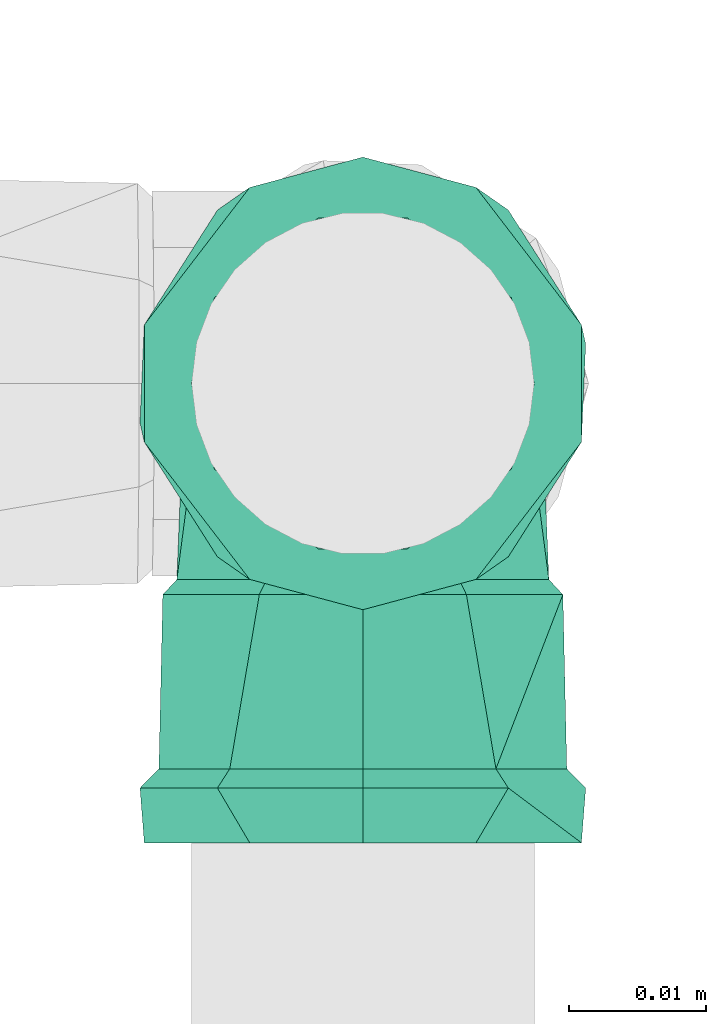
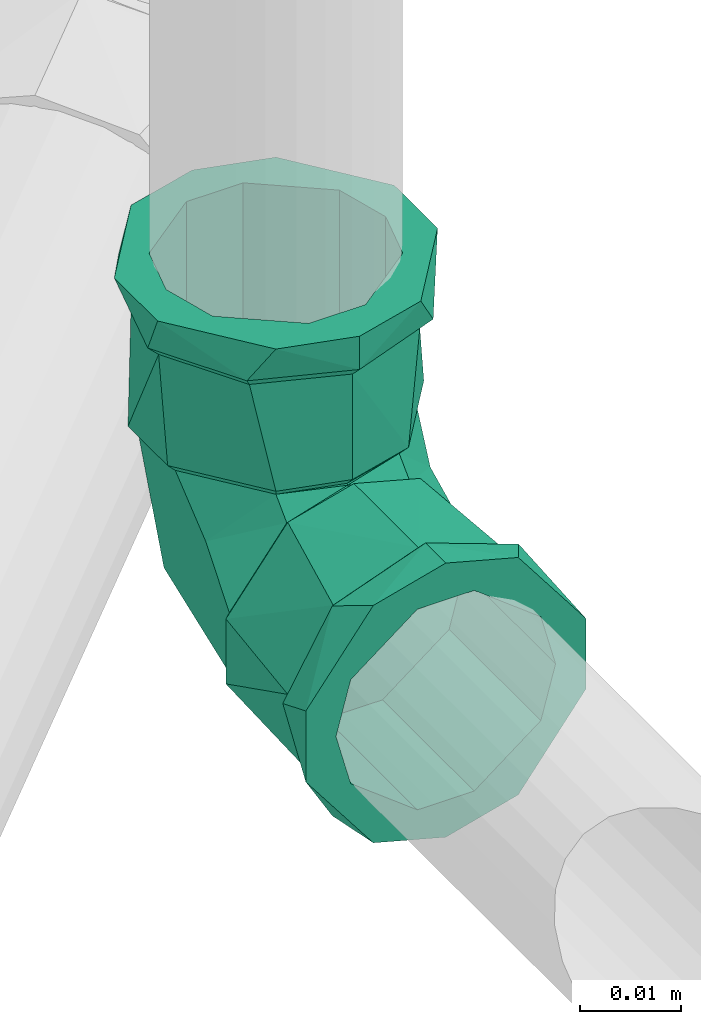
# One storey, part 329 of 589: 1 flow fitting.
"""IFC2X3 building model written with IfcOpenShell, lengths in millimetres."""

from ifc_helpers import new_model, entity, si_unit, converted_unit, derived_unit, direction, frame, origin, place, context, subcontext, project, spatial, faceted_brep, source, transform, mapped, material, type_object, type_shapes, element, save


model = new_model("IFC2X3")

# Units and contexts
model_context = context("Model", 3, precision=0.01, world=origin(), true_north=direction((6.123031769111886e-17, 1.0)))
body_context = subcontext(model_context, "Body", "Model", "MODEL_VIEW")
ifc_project = project(units=[si_unit("LENGTHUNIT", "METRE", prefix="MILLI"), si_unit("AREAUNIT", "SQUARE_METRE"), si_unit("VOLUMEUNIT", "CUBIC_METRE"), converted_unit("PLANEANGLEUNIT", "DEGREE", entity("IfcRatioMeasure", 0.017453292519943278), si_unit("PLANEANGLEUNIT", "RADIAN"), dimensions=[0, 0, 0, 0, 0, 0, 0]), si_unit("MASSUNIT", "GRAM", prefix="KILO"), derived_unit("MASSDENSITYUNIT", [(si_unit("MASSUNIT", "GRAM", prefix="KILO"), 1), (si_unit("LENGTHUNIT", "METRE"), -3)]), derived_unit("IONCONCENTRATIONUNIT", [(si_unit("MASSUNIT", "GRAM", prefix="KILO"), 1), (si_unit("LENGTHUNIT", "METRE"), -3)]), derived_unit("MOMENTOFINERTIAUNIT", [(si_unit("LENGTHUNIT", "METRE"), 4)]), si_unit("TIMEUNIT", "SECOND"), si_unit("FREQUENCYUNIT", "HERTZ"), si_unit("THERMODYNAMICTEMPERATUREUNIT", "DEGREE_CELSIUS"), derived_unit("THERMALTRANSMITTANCEUNIT", [(si_unit("MASSUNIT", "GRAM", prefix="KILO"), 1), (si_unit("THERMODYNAMICTEMPERATUREUNIT", "KELVIN"), -1), (si_unit("TIMEUNIT", "SECOND"), -3)]), derived_unit("THERMALCONDUCTANCEUNIT", [(si_unit("MASSUNIT", "GRAM", prefix="KILO"), 1), (si_unit("THERMODYNAMICTEMPERATUREUNIT", "KELVIN"), -1), (si_unit("TIMEUNIT", "SECOND"), -3), (si_unit("LENGTHUNIT", "METRE"), 1)]), derived_unit("VOLUMETRICFLOWRATEUNIT", [(si_unit("LENGTHUNIT", "METRE"), 3), (si_unit("TIMEUNIT", "SECOND"), -1)]), derived_unit("MASSFLOWRATEUNIT", [(si_unit("MASSUNIT", "GRAM", prefix="KILO"), 1), (si_unit("TIMEUNIT", "SECOND"), -1)]), derived_unit("ROTATIONALFREQUENCYUNIT", [(si_unit("TIMEUNIT", "SECOND"), -1)]), si_unit("ELECTRICCURRENTUNIT", "AMPERE"), si_unit("ELECTRICVOLTAGEUNIT", "VOLT"), si_unit("POWERUNIT", "WATT"), si_unit("FORCEUNIT", "NEWTON", prefix="KILO"), si_unit("ILLUMINANCEUNIT", "LUX"), si_unit("LUMINOUSFLUXUNIT", "LUMEN"), si_unit("LUMINOUSINTENSITYUNIT", "CANDELA"), derived_unit("USERDEFINED", [(si_unit("MASSUNIT", "GRAM", prefix="KILO"), -1), (si_unit("LENGTHUNIT", "METRE"), -2), (si_unit("TIMEUNIT", "SECOND"), 3), (si_unit("LUMINOUSFLUXUNIT", "LUMEN"), 1)]), derived_unit("USERDEFINED", [(si_unit("MASSUNIT", "GRAM", prefix="KILO"), 1), (si_unit("TIMEUNIT", "SECOND"), -3), (si_unit("LENGTHUNIT", "METRE"), 3), (si_unit("ELECTRICCURRENTUNIT", "AMPERE"), -2)]), derived_unit("SOUNDPOWERUNIT", [(si_unit("MASSUNIT", "GRAM", prefix="KILO"), 1), (si_unit("TIMEUNIT", "SECOND"), -3), (si_unit("LENGTHUNIT", "METRE"), 2)]), derived_unit("SOUNDPRESSUREUNIT", [(si_unit("MASSUNIT", "GRAM", prefix="KILO"), 1), (si_unit("LENGTHUNIT", "METRE"), -1), (si_unit("TIMEUNIT", "SECOND"), -2)]), derived_unit("LINEARVELOCITYUNIT", [(si_unit("LENGTHUNIT", "METRE"), 1), (si_unit("TIMEUNIT", "SECOND"), -1)]), si_unit("PRESSUREUNIT", "PASCAL"), derived_unit("USERDEFINED", [(si_unit("MASSUNIT", "GRAM", prefix="KILO"), 1), (si_unit("LENGTHUNIT", "METRE"), -2), (si_unit("TIMEUNIT", "SECOND"), -2)]), derived_unit("LINEARFORCEUNIT", [(si_unit("MASSUNIT", "GRAM", prefix="KILO"), 1), (si_unit("TIMEUNIT", "SECOND"), -2)]), derived_unit("PLANARFORCEUNIT", [(si_unit("MASSUNIT", "GRAM", prefix="KILO"), 1), (si_unit("LENGTHUNIT", "METRE"), -1), (si_unit("TIMEUNIT", "SECOND"), -2)]), derived_unit("SPECIFICHEATCAPACITYUNIT", [(si_unit("THERMODYNAMICTEMPERATUREUNIT", "KELVIN"), -1), (si_unit("LENGTHUNIT", "METRE"), 2), (si_unit("TIMEUNIT", "SECOND"), -2)]), derived_unit("HEATINGVALUEUNIT", [(si_unit("LENGTHUNIT", "METRE"), 2), (si_unit("TIMEUNIT", "SECOND"), -2)]), derived_unit("VAPORPERMEABILITYUNIT", [(si_unit("LENGTHUNIT", "METRE"), -1), (si_unit("TIMEUNIT", "SECOND"), 1)]), derived_unit("DYNAMICVISCOSITYUNIT", [(si_unit("MASSUNIT", "GRAM", prefix="KILO"), 1), (si_unit("TIMEUNIT", "SECOND"), -1), (si_unit("LENGTHUNIT", "METRE"), -1)]), derived_unit("THERMALEXPANSIONCOEFFICIENTUNIT", [(si_unit("THERMODYNAMICTEMPERATUREUNIT", "KELVIN"), -1)]), derived_unit("MODULUSOFELASTICITYUNIT", [(si_unit("MASSUNIT", "GRAM", prefix="KILO"), 1), (si_unit("LENGTHUNIT", "METRE"), -1), (si_unit("TIMEUNIT", "SECOND"), -2)]), derived_unit("ISOTHERMALMOISTURECAPACITYUNIT", [(si_unit("LENGTHUNIT", "METRE"), 3), (si_unit("MASSUNIT", "GRAM", prefix="KILO"), -1)]), derived_unit("MOISTUREDIFFUSIVITYUNIT", [(si_unit("TIMEUNIT", "SECOND"), -1), (si_unit("LENGTHUNIT", "METRE"), 2)])], contexts=[model_context])

# Site, building, storey
site_placement = place(None, origin())
site = spatial("IfcSite", under=ifc_project, at=site_placement, Name="Default", CompositionType="ELEMENT")
building_placement = place(site_placement, origin())
building = spatial("IfcBuilding", under=site, at=building_placement, CompositionType="ELEMENT")
storey_placement = place(building_placement, frame((0.0, 0.0, 100.0)))
storey = spatial("IfcBuildingStorey", under=building, at=storey_placement, Name="TÉRREO", CompositionType="ELEMENT", Elevation=100.0)

# Flow fitting
ifc_material = material(Name="PVC Marrom")
pipe_fitting_type = type_object("IfcPipeFittingType", Name="PVC Marrom Soldável_Joelho 45°_90°_Rodrigo MEP:Joelho", PredefinedType="NOTDEFINED", material=ifc_material)
shared_shape = source(origin(), body_context, "Body", "Brep", [
    faceted_brep([(3.908167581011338, 15.40000000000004, 14.585479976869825), (13.076983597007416, 15.40000000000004, 7.549999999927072), (15.099999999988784, 15.40000000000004, 0.0), (13.076983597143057, 15.40000000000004, -7.55000000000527), (3.9081675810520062, 15.40000000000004, -14.585479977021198), (-3.9081675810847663, 15.40000000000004, -14.585479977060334), (-13.076983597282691, 15.40000000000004, -7.550000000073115), (-15.100000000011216, 15.40000000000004, 0.0), (-13.076983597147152, 15.40000000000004, 7.549999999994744), (-3.908167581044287, 15.40000000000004, 14.585479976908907), (-3.633819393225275, 14.30000000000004, 13.561598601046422), (-12.158996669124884, 14.30000000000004, 7.0199999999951), (-14.040000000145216, 14.30000000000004, 0.0), (-12.158996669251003, 14.30000000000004, -7.020000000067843), (-3.6338193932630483, 14.30000000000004, -13.561598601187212), (3.6338193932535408, 14.30000000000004, -13.561598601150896), (12.158996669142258, 14.30000000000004, -7.020000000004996), (14.039999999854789, 14.30000000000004, 0.0), (12.158996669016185, 14.30000000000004, 7.0199999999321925), (3.6338193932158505, 14.30000000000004, 13.561598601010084)], [[[0, 1, 2, 3, 4, 5, 6, 7, 8, 9]], [[10, 11, 12, 13, 14, 15, 16, 17, 18, 19]], [[3, 17, 16]], [[4, 3, 16, 15]], [[3, 2, 17]], [[15, 14, 5, 4]], [[6, 5, 14, 13]], [[7, 13, 12]], [[7, 6, 13]], [[8, 12, 11]], [[9, 8, 11, 10]], [[8, 7, 12]], [[10, 19, 0, 9]], [[1, 0, 19, 18]], [[2, 18, 17]], [[2, 1, 18]]]),
    faceted_brep([(-15.399999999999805, 3.908167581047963, 14.585479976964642), (-15.399999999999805, 13.076983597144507, 7.549999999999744), (-15.399999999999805, 15.100000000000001, 0.0), (-15.399999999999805, 13.076983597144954, -7.54999999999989), (-15.399999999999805, 3.9081675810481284, -14.58547997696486), (-15.399999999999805, -3.9081675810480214, -14.585479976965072), (-15.399999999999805, -13.0769835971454, -7.550000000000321), (-15.399999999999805, -15.099999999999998, 0.0), (-15.399999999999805, -13.076983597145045, 7.550000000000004), (-15.399999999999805, -3.908167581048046, 14.585479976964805), (-14.299999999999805, 12.158996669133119, 7.019999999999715), (-14.299999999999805, 3.6338193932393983, 13.561598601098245), (-14.299999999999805, -3.633819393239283, 13.56159860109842), (-14.299999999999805, -12.15899666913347, 7.020000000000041), (-14.299999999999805, -14.040000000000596, 0.0), (-14.299999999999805, -12.158996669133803, -7.020000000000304), (-14.299999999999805, -3.63381939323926, -13.561598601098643), (-14.299999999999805, 3.6338193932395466, -13.56159860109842), (-14.299999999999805, 12.158996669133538, -7.019999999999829), (-14.299999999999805, 14.03999999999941, 0.0)], [[[0, 1, 2, 3, 4, 5, 6, 7, 8, 9]], [[10, 11, 12, 13, 14, 15, 16, 17, 18, 19]], [[3, 2, 19, 18]], [[4, 3, 18, 17]], [[17, 16, 5, 4]], [[6, 5, 16, 15]], [[7, 6, 15, 14]], [[8, 7, 14, 13]], [[9, 8, 13, 12]], [[12, 11, 0, 9]], [[1, 0, 11, 10]], [[2, 1, 10, 19]]]),
    faceted_brep([(-33.4999999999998, -4.2705142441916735, -15.937776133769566), (-33.4999999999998, -6.250000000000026, -10.825317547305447), (-33.4999999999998, 0.0, -12.5), (-33.4999999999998, -14.289419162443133, -8.25000000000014), (-33.4999999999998, 4.270514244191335, -15.937776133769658), (-33.4999999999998, -12.074072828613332, -3.23523806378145), (-33.4999999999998, -16.499999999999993, 0.0), (-33.4999999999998, -12.074072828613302, 3.2352380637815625), (-33.4999999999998, -14.289419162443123, 8.249999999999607), (-33.4999999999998, -6.249999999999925, 10.825317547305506), (-33.4999999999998, -4.27051424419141, 15.937776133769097), (-33.4999999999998, 0.0, 12.5), (-33.4999999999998, 4.270514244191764, 15.937776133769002), (-33.4999999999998, 6.249999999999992, 10.825317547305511), (-33.4999999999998, 14.28941916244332, 8.249999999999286), (-33.4999999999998, 12.074072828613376, 3.2352380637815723), (-33.4999999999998, 16.500000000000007, 0.0), (-33.4999999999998, 12.074072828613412, -3.235238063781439), (-33.4999999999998, 14.289419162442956, -8.250000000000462), (-33.4999999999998, 6.250000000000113, -10.82531754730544), (-29.499999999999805, 16.5, 0.0), (-29.500000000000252, 12.639142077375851, 10.606700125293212), (-29.50000000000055, 2.8633833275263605, 16.249647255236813), (-29.50000000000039, -12.64180232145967, 10.603529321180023), (-29.499999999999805, -16.499999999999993, 0.0), (-29.500000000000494, -4.889209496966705, 13.426588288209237), (-29.49999999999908, -12.641802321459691, -10.603529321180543), (-29.49999999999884, -2.8674593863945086, -16.24892847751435), (-29.499999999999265, 12.639142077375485, -10.606700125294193), (-29.499999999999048, 4.885841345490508, -13.427814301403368), (-28.099999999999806, -15.099999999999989, 0.0), (-28.10000000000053, -11.56916454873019, 9.703835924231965), (-28.100000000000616, -4.474367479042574, 12.287362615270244), (-28.1000000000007, 2.6204295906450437, 14.870889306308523), (-28.100000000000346, 11.566730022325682, 9.706737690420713), (-28.09999999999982, 15.099999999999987, 0.0), (-28.099999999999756, 11.566730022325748, -9.706737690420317), (-28.09999999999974, 4.4712851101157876, -12.28848460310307), (-28.09999999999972, -2.6241598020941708, -14.870231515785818), (-28.09999999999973, -11.569164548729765, -9.703835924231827), (-15.399999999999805, 0.0, -12.5), (-15.399999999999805, -6.250000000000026, -10.825317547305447), (-15.399999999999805, -3.908167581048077, -14.585479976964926), (-15.399999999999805, 3.9081675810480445, -14.585479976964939), (-15.399999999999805, 6.250000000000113, -10.82531754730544), (-15.399999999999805, -13.076983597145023, -7.549999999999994), (-15.399999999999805, -12.074072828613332, -3.23523806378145), (-15.399999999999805, -15.099999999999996, 0.0), (-15.399999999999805, -12.074072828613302, 3.2352380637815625), (-15.399999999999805, -13.076983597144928, 7.550000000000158), (-15.399999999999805, -6.249999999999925, 10.825317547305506), (-15.399999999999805, -3.9081675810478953, 14.585479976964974), (-15.399999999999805, 0.0, 12.5), (-15.399999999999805, 3.9081675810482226, 14.58547997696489), (-15.399999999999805, 6.249999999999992, 10.825317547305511), (-15.399999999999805, 13.076983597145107, 7.549999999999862), (-15.399999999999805, 12.074072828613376, 3.2352380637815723), (-15.399999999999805, 15.100000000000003, 0.0), (-15.399999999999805, 12.074072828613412, -3.235238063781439), (-15.399999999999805, 13.076983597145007, -7.550000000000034)], [[[0, 1, 2]], [[1, 0, 3]], [[2, 4, 0]], [[3, 5, 1]], [[3, 6, 5]], [[5, 6, 7]], [[8, 7, 6]], [[7, 8, 9]], [[10, 9, 8]], [[9, 10, 11]], [[11, 10, 12]], [[12, 13, 11]], [[14, 13, 12]], [[13, 14, 15]], [[16, 15, 14]], [[16, 17, 15]], [[18, 17, 16]], [[19, 17, 18]], [[19, 18, 4]], [[4, 2, 19]], [[16, 14, 20]], [[14, 21, 20]], [[21, 14, 12]], [[21, 12, 22]], [[23, 10, 8]], [[24, 8, 6]], [[10, 23, 25, 22]], [[23, 8, 24]], [[10, 22, 12]], [[6, 3, 24]], [[3, 26, 24]], [[26, 3, 0]], [[26, 0, 27]], [[28, 4, 18]], [[20, 18, 16]], [[4, 28, 29, 27]], [[28, 18, 20]], [[4, 27, 0]], [[30, 31, 23, 24]], [[31, 32, 33, 22, 25, 23]], [[34, 35, 20, 21]], [[34, 21, 22, 33]], [[35, 36, 28, 20]], [[36, 37, 38, 27, 29, 28]], [[39, 30, 24, 26]], [[39, 26, 27, 38]], [[40, 41, 42]], [[42, 43, 40]], [[44, 40, 43]], [[45, 42, 41]], [[41, 46, 45]], [[46, 47, 45]], [[48, 47, 46]], [[47, 48, 49]], [[50, 49, 48]], [[49, 50, 51]], [[52, 51, 50]], [[53, 51, 52]], [[52, 54, 53]], [[53, 54, 55]], [[56, 55, 54]], [[55, 56, 57]], [[56, 58, 57]], [[59, 58, 44]], [[57, 58, 59]], [[43, 59, 44]], [[35, 34, 55]], [[35, 55, 57]], [[55, 34, 53]], [[34, 33, 53]], [[51, 33, 32, 31]], [[49, 31, 30]], [[31, 49, 51]], [[49, 30, 47]], [[33, 51, 53]], [[30, 39, 45]], [[30, 45, 47]], [[45, 39, 42]], [[39, 38, 42]], [[43, 38, 37, 36]], [[59, 36, 35]], [[36, 59, 43]], [[59, 35, 57]], [[38, 43, 42]], [[9, 11, 52, 50]], [[7, 9, 50, 48]], [[48, 46, 5, 7]], [[1, 5, 46, 41]], [[2, 1, 41, 40]], [[19, 2, 40, 44]], [[17, 19, 44, 58]], [[58, 56, 15, 17]], [[13, 15, 56, 54]], [[11, 13, 54, 52]]]),
    faceted_brep([(-14.299999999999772, -3.6338193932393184, -13.561598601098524), (-14.299999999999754, -12.158996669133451, -7.020000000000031), (-14.29999999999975, -14.039999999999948, 0.0), (-14.299999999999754, -12.158996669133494, 7.019999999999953), (-14.299999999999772, -3.6338193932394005, 13.561598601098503), (-14.299999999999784, 3.633819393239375, 13.561598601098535), (-14.299999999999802, 12.158996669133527, 7.0200000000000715), (-14.299999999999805, 14.04000000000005, 0.0), (-14.299999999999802, 12.158996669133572, -7.019999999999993), (-14.299999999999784, 3.63381939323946, -13.561598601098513), (3.633819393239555, 14.29999999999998, -13.561598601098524), (-3.633819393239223, 14.300000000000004, -13.561598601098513), (-12.158996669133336, 14.300000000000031, -7.019999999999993), (-14.039999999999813, 14.300000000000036, 0.0), (-12.158996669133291, 14.300000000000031, 7.0200000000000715), (-3.6338193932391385, 14.300000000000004, 13.561598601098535), (3.6338193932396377, 14.29999999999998, 13.561598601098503), (12.158996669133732, 14.299999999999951, 7.019999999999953), (14.040000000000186, 14.299999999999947, 0.0), (12.158996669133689, 14.299999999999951, -7.020000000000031), (-0.45476175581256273, 0.4547603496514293, 13.009299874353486), (-4.991226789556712, -9.102895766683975, 8.866254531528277), (-2.689013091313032, -7.336393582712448, 0.0), (3.7770734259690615, -3.6031967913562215, 0.0), (9.09033094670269, 4.905775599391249, 8.841582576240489), (10.243159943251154, 0.13000000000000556, 0.0), (-14.116152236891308, 14.116152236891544, 0.0), (-8.296884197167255, 8.29688403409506, 12.78130953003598), (-0.454761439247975, 0.45476027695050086, -13.009299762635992), (-8.296884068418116, 8.296883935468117, -12.78130960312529), (9.090330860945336, 4.90577564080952, -8.84158269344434), (-4.991226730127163, -9.10289574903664, -8.866254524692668)], [[[0, 1, 2, 3, 4, 5, 6, 7, 8, 9]], [[10, 11, 12, 13, 14, 15, 16, 17, 18, 19]], [[4, 20, 5]], [[21, 3, 22]], [[20, 4, 21]], [[21, 22, 23]], [[17, 24, 25]], [[26, 6, 14]], [[23, 20, 21]], [[26, 7, 6]], [[6, 5, 27]], [[3, 2, 22]], [[20, 23, 24]], [[25, 18, 17]], [[20, 27, 5]], [[16, 20, 24]], [[17, 16, 24]], [[6, 27, 14]], [[26, 14, 13]], [[21, 4, 3]], [[27, 15, 14]], [[27, 20, 15]], [[23, 25, 24]], [[15, 20, 16]], [[8, 7, 26]], [[28, 29, 11]], [[28, 10, 30]], [[8, 12, 29]], [[31, 22, 1]], [[31, 23, 22]], [[28, 9, 29]], [[19, 30, 10]], [[0, 28, 31]], [[1, 22, 2]], [[8, 26, 12]], [[12, 11, 29]], [[8, 29, 9]], [[31, 1, 0]], [[10, 28, 11]], [[30, 19, 25]], [[0, 9, 28]], [[19, 18, 25]], [[25, 23, 30]], [[23, 31, 28]], [[30, 23, 28]], [[12, 26, 13]]]),
    faceted_brep([(0.0, 15.40000000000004, -12.5), (-6.249999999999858, 15.40000000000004, -10.825317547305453), (-3.908167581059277, 15.40000000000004, -14.585479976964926), (3.9081675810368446, 15.40000000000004, -14.585479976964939), (6.250000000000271, 15.40000000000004, -10.82531754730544), (-13.076983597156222, 15.40000000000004, -7.549999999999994), (-12.07407282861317, 15.40000000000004, -3.235238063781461), (-15.100000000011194, 15.40000000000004, 0.0), (-12.074072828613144, 15.40000000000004, 3.2352380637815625), (-13.076983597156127, 15.40000000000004, 7.550000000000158), (-6.249999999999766, 15.40000000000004, 10.825317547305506), (-3.9081675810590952, 15.40000000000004, 14.585479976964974), (0.0, 15.40000000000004, 12.5), (3.9081675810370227, 15.40000000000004, 14.58547997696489), (6.250000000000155, 15.40000000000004, 10.825317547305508), (13.076983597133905, 15.40000000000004, 7.549999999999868), (12.074072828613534, 15.40000000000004, 3.2352380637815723), (15.099999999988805, 15.40000000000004, 0.0), (12.07407282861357, 15.40000000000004, -3.235238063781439), (13.07698359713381, 15.40000000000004, -7.550000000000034), (15.099999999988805, 28.10000000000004, 0.0), (11.56673002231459, 28.100000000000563, 9.706737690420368), (4.471285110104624, 28.10000000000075, 12.288484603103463), (-2.624159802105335, 28.100000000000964, 14.870231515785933), (-11.569164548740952, 28.10000000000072, 9.703835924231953), (-15.100000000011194, 28.10000000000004, 0.0), (-11.569164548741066, 28.10000000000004, -9.703835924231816), (-4.474367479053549, 28.10000000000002, -12.287362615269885), (2.6204295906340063, 28.099999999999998, -14.870889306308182), (11.566730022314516, 28.10000000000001, -9.706737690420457), (-12.639142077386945, 29.50000000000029, 10.606700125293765), (-16.50000000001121, 29.500000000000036, 0.0), (-2.8633833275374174, 29.50000000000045, 16.249647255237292), (12.641802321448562, 29.500000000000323, 10.603529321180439), (4.889209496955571, 29.500000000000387, 13.426588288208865), (16.499999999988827, 29.50000000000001, 0.0), (12.64180232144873, 29.500000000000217, -10.603529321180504), (2.867459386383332, 29.500000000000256, -16.24892847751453), (-12.639142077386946, 29.500000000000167, -10.606700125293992), (-4.885841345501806, 29.500000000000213, -13.427814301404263), (-4.270514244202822, 33.50000000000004, -15.937776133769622), (-6.249999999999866, 33.50000000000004, -10.825317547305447), (0.0, 33.50000000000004, -12.5), (-14.289419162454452, 33.50000000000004, -8.249999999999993), (4.270514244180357, 33.50000000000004, -15.937776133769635), (-12.074072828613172, 33.50000000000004, -3.23523806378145), (-16.50000000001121, 33.50000000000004, 0.0), (-12.074072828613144, 33.50000000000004, 3.2352380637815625), (-14.28941916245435, 33.50000000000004, 8.250000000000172), (-6.2499999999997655, 33.50000000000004, 10.825317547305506), (-4.270514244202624, 33.50000000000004, 15.937776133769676), (0.0, 33.50000000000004, 12.5), (4.270514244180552, 33.50000000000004, 15.937776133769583), (6.250000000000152, 33.50000000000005, 10.825317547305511), (14.289419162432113, 33.50000000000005, 8.249999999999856), (12.074072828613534, 33.50000000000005, 3.2352380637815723), (16.49999999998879, 33.50000000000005, 0.0), (12.07407282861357, 33.50000000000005, -3.235238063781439), (14.289419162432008, 33.50000000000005, -8.250000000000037), (6.250000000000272, 33.50000000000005, -10.82531754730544)], [[[0, 1, 2]], [[2, 3, 0]], [[4, 0, 3]], [[5, 2, 1]], [[1, 6, 5]], [[6, 7, 5]], [[8, 7, 6]], [[7, 8, 9]], [[10, 9, 8]], [[9, 10, 11]], [[12, 11, 10]], [[13, 11, 12]], [[12, 14, 13]], [[13, 14, 15]], [[16, 15, 14]], [[15, 16, 17]], [[16, 18, 17]], [[19, 18, 4]], [[17, 18, 19]], [[3, 19, 4]], [[20, 21, 15]], [[20, 15, 17]], [[15, 21, 13]], [[13, 21, 22, 23]], [[11, 23, 24]], [[9, 24, 25]], [[24, 9, 11]], [[9, 25, 7]], [[23, 11, 13]], [[25, 26, 5]], [[25, 5, 7]], [[5, 26, 2]], [[2, 26, 27, 28]], [[3, 28, 29]], [[19, 29, 20]], [[29, 19, 3]], [[19, 20, 17]], [[28, 3, 2]], [[24, 23, 30]], [[25, 24, 31]], [[31, 24, 30]], [[23, 32, 30]], [[21, 20, 33]], [[21, 33, 34]], [[22, 32, 23]], [[35, 33, 20]], [[32, 22, 34]], [[22, 21, 34]], [[20, 29, 36]], [[36, 35, 20]], [[37, 36, 29]], [[38, 39, 27]], [[29, 28, 37]], [[26, 25, 31]], [[38, 27, 26]], [[38, 26, 31]], [[28, 39, 37]], [[39, 28, 27]], [[40, 41, 42]], [[41, 40, 43]], [[42, 44, 40]], [[43, 45, 41]], [[43, 46, 45]], [[45, 46, 47]], [[48, 47, 46]], [[47, 48, 49]], [[50, 49, 48]], [[49, 50, 51]], [[51, 50, 52]], [[52, 53, 51]], [[54, 53, 52]], [[53, 54, 55]], [[56, 55, 54]], [[56, 57, 55]], [[58, 57, 56]], [[59, 57, 58]], [[59, 58, 44]], [[44, 42, 59]], [[56, 54, 35]], [[54, 33, 35]], [[33, 54, 52]], [[52, 32, 34, 33]], [[30, 50, 48]], [[31, 48, 46]], [[50, 30, 32]], [[30, 48, 31]], [[50, 32, 52]], [[46, 43, 31]], [[43, 38, 31]], [[38, 43, 40]], [[40, 37, 39, 38]], [[36, 44, 58]], [[35, 58, 56]], [[44, 36, 37]], [[36, 58, 35]], [[44, 37, 40]], [[49, 51, 12, 10]], [[47, 49, 10, 8]], [[8, 6, 45, 47]], [[41, 45, 6, 1]], [[42, 41, 1, 0]], [[59, 42, 0, 4]], [[57, 59, 4, 18]], [[18, 16, 55, 57]], [[53, 55, 16, 14]], [[51, 53, 14, 12]]]),
])
type_shapes(pipe_fitting_type, [shared_shape])
flow_fitting_placement = place(storey_placement, frame((203.7291461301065, -7887.861245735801, -37.35824798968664), z_axis=(-1.0, 0.0, -9.679762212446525e-06), x_axis=(9.679762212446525e-06, 0.0, -1.0)))
element("IfcFlowFitting", 1, at=flow_fitting_placement, inside=storey, type_object=pipe_fitting_type, material=ifc_material, Name="PVC Marrom Soldável_Joelho 45°_90°_Rodrigo MEP:Joelho", ObjectType="PVC Marrom Soldável_Joelho 45°_90°_Rodrigo MEP:Joelho", context=body_context, shape_type="MappedRepresentation", body=[
    mapped(shared_shape, transform((0.0, 0.0, 0.0), scale=1.0)),
])

save(model, "model.ifc")
